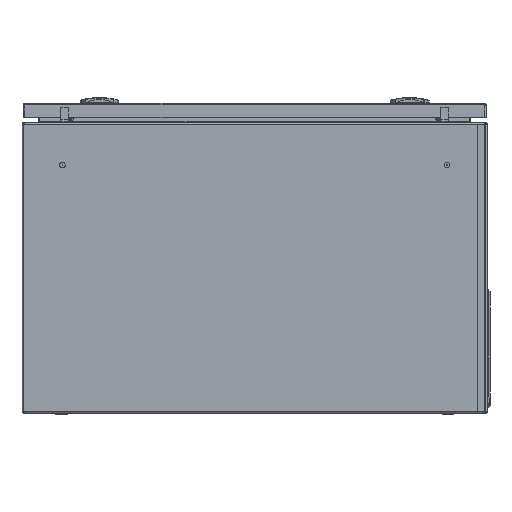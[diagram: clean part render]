
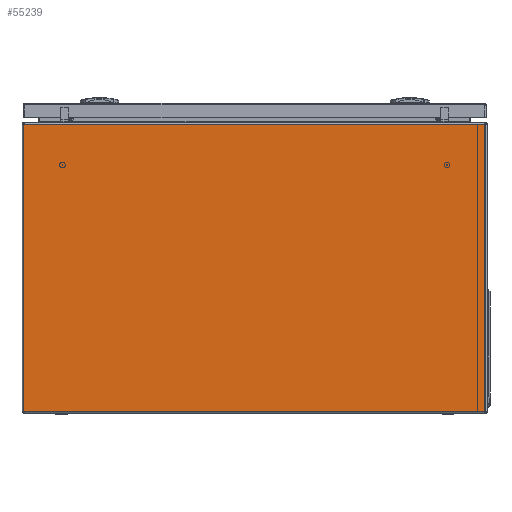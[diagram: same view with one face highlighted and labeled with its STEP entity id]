
A CAD part, left-side view. The second image highlights one B-rep face of the part: STEP entity #55239.
In plain terms, the highlighted planar face has unit normal (-1, 0, 0).
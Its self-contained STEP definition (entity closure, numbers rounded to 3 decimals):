
#1817 = LINE ( 'NONE', #51371, #32175 ) ;
#6492 = LINE ( 'NONE', #110018, #29228 ) ;
#6642 = DIRECTION ( 'NONE',  ( 0., 0., -1. ) ) ;
#11199 = CARTESIAN_POINT ( 'NONE',  ( -1.2, -185.1, -297.6 ) ) ;
#13253 = ORIENTED_EDGE ( 'NONE', *, *, #97729, .F. ) ;
#16308 = CARTESIAN_POINT ( 'NONE',  ( -1.2, -185.1, 298.8 ) ) ;
#16908 = CARTESIAN_POINT ( 'NONE',  ( -1.2, -185.1, 296.95 ) ) ;
#17556 = VERTEX_POINT ( 'NONE', #16908 ) ;
#24911 = LINE ( 'NONE', #68714, #42130 ) ;
#26469 = VERTEX_POINT ( 'NONE', #79292 ) ;
#28847 = VECTOR ( 'NONE', #93721, 1000. ) ;
#29228 = VECTOR ( 'NONE', #41196, 1000. ) ;
#30620 = VERTEX_POINT ( 'NONE', #11199 ) ;
#32175 = VECTOR ( 'NONE', #86083, 1000. ) ;
#35369 = ORIENTED_EDGE ( 'NONE', *, *, #37749, .F. ) ;
#36607 = VECTOR ( 'NONE', #6642, 1000. ) ;
#37749 = EDGE_CURVE ( 'NONE', #26469, #66405, #104357, .T. ) ;
#41196 = DIRECTION ( 'NONE',  ( 0., 0., -1. ) ) ;
#41979 = ORIENTED_EDGE ( 'NONE', *, *, #76305, .T. ) ;
#42130 = VECTOR ( 'NONE', #94317, 1000. ) ;
#42938 = ORIENTED_EDGE ( 'NONE', *, *, #69512, .T. ) ;
#44050 = CARTESIAN_POINT ( 'NONE',  ( -1.2, -185.1, 297. ) ) ;
#44586 = EDGE_CURVE ( 'NONE', #48909, #84489, #1817, .T. ) ;
#45544 = VECTOR ( 'NONE', #61664, 1000. ) ;
#48909 = VERTEX_POINT ( 'NONE', #101574 ) ;
#51371 = CARTESIAN_POINT ( 'NONE',  ( -1.2, 185.1, 297. ) ) ;
#54190 = ORIENTED_EDGE ( 'NONE', *, *, #96376, .F. ) ;
#55239 = ADVANCED_FACE ( 'NONE', ( #60183 ), #105085, .F. ) ;
#60094 = LINE ( 'NONE', #16308, #36607 ) ;
#60183 = FACE_OUTER_BOUND ( 'NONE', #75513, .T. ) ;
#61664 = DIRECTION ( 'NONE',  ( 0., 0., 1. ) ) ;
#61844 = CARTESIAN_POINT ( 'NONE',  ( -1.2, -185.1, -298.8 ) ) ;
#62123 = ORIENTED_EDGE ( 'NONE', *, *, #44586, .F. ) ;
#66405 = VERTEX_POINT ( 'NONE', #88396 ) ;
#68127 = CARTESIAN_POINT ( 'NONE',  ( -1.2, -185.1, -297.55 ) ) ;
#68714 = CARTESIAN_POINT ( 'NONE',  ( -1.2, 185.1, 297. ) ) ;
#69512 = EDGE_CURVE ( 'NONE', #26469, #30620, #70715, .T. ) ;
#70715 = LINE ( 'NONE', #105411, #84547 ) ;
#72601 = CARTESIAN_POINT ( 'NONE',  ( -1.2, -185.1, -297.55 ) ) ;
#75513 = EDGE_LOOP ( 'NONE', ( #62123, #99929, #35369, #42938, #13253, #41979, #54190 ) ) ;
#76305 = EDGE_CURVE ( 'NONE', #77762, #17556, #111360, .T. ) ;
#77762 = VERTEX_POINT ( 'NONE', #72601 ) ;
#79292 = CARTESIAN_POINT ( 'NONE',  ( -1.2, 185.1, -297.6 ) ) ;
#82241 = AXIS2_PLACEMENT_3D ( 'NONE', #61844, #104530, #94885 ) ;
#84489 = VERTEX_POINT ( 'NONE', #44050 ) ;
#84547 = VECTOR ( 'NONE', #88353, 1000. ) ;
#85621 = CARTESIAN_POINT ( 'NONE',  ( -1.2, 185.1, 298.8 ) ) ;
#86083 = DIRECTION ( 'NONE',  ( 0., -1., 0. ) ) ;
#88353 = DIRECTION ( 'NONE',  ( 0., -1., 0. ) ) ;
#88396 = CARTESIAN_POINT ( 'NONE',  ( -1.2, 185.1, -297.3 ) ) ;
#93721 = DIRECTION ( 'NONE',  ( 0., 0., 1. ) ) ;
#94317 = DIRECTION ( 'NONE',  ( 0., 0., -1. ) ) ;
#94885 = DIRECTION ( 'NONE',  ( 0., 0., -1. ) ) ;
#96376 = EDGE_CURVE ( 'NONE', #84489, #17556, #6492, .T. ) ;
#97729 = EDGE_CURVE ( 'NONE', #77762, #30620, #60094, .T. ) ;
#99806 = EDGE_CURVE ( 'NONE', #48909, #66405, #24911, .T. ) ;
#99929 = ORIENTED_EDGE ( 'NONE', *, *, #99806, .T. ) ;
#101574 = CARTESIAN_POINT ( 'NONE',  ( -1.2, 185.1, 297. ) ) ;
#104357 = LINE ( 'NONE', #85621, #45544 ) ;
#104530 = DIRECTION ( 'NONE',  ( 1., 0., 0. ) ) ;
#105085 = PLANE ( 'NONE',  #82241 ) ;
#105411 = CARTESIAN_POINT ( 'NONE',  ( -1.2, 185.1, -297.6 ) ) ;
#110018 = CARTESIAN_POINT ( 'NONE',  ( -1.2, -185.1, 298.8 ) ) ;
#111360 = LINE ( 'NONE', #68127, #28847 ) ;
